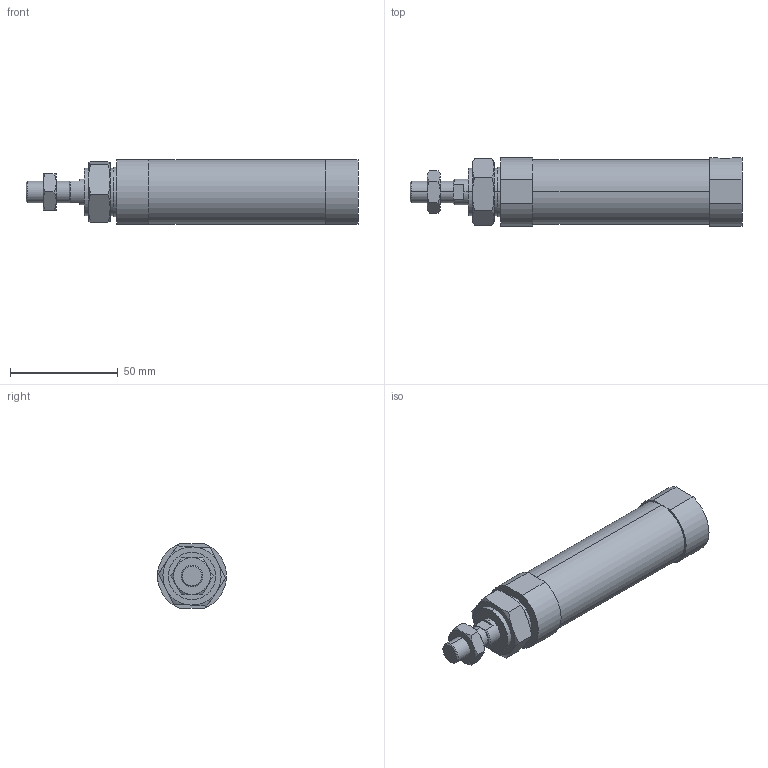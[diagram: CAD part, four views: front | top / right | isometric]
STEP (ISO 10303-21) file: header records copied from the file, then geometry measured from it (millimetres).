
FILE_DESCRIPTION (( 'STEP AP203' ), '1' );
FILE_NAME ('JGND1-25-25-N.STEP', '2016-08-04T02:16:32', ( '' ), ( '' ), 'SwSTEP 2.0', 'SolidWorks 2014', '' );
FILE_SCHEMA (( 'CONFIG_CONTROL_DESIGN' ));
Length unit declared in the file: millimetre
Products named in the file (4): J#1-25-25(P); JGND1-25-25-N
Assembly tree (3 placements, depth 2):
  JGND1-25-25-N
    J#1-25-25(P)
    (unnamed)
    (unnamed)
Bounding box: 154 x 32 x 30 mm (x, y, z)
Volume: 92610.2 mm3; surface area: 18022.4 mm2
Topology: 3 solids, 3 shells, 85 faces, 188 edges, 111 vertices
Faces by surface type: plane 35, torus 24, cylinder 20, cone 6
Entity records: 2986 total; most frequent: CARTESIAN_POINT 762, DIRECTION 384, ORIENTED_EDGE 372, EDGE_CURVE 186, AXIS2_PLACEMENT_3D 161, VERTEX_POINT 111, EDGE_LOOP 93, ADVANCED_FACE 85
